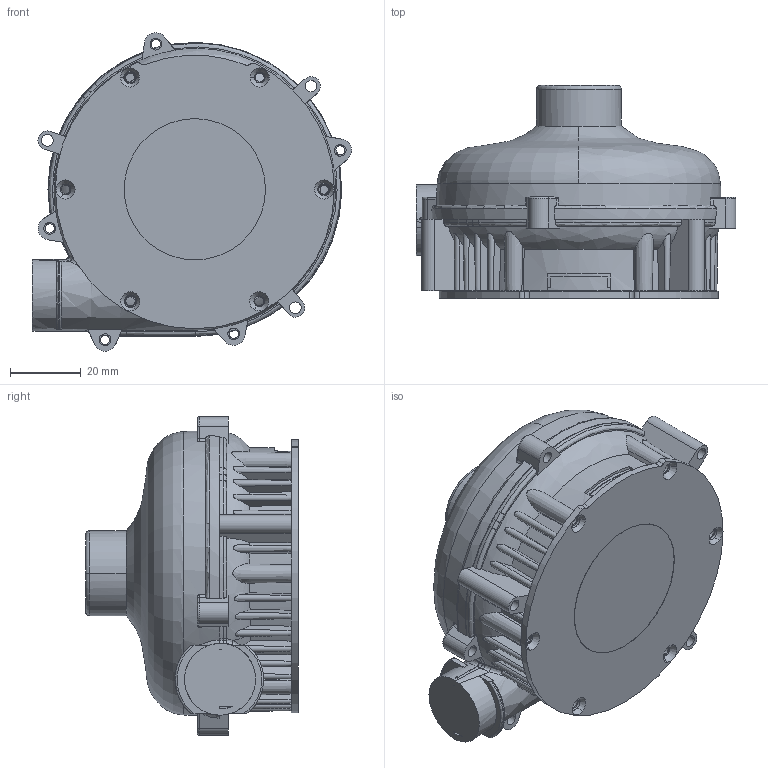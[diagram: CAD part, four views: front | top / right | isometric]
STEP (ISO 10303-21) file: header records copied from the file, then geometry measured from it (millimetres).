
FILE_DESCRIPTION((''),'2;1');
FILE_NAME('_0002_54','2026-07-15T10:23:40',('pc'),(''),'CREO PARAMETRIC BY PTC INC, 2018050','CREO PARAMETRIC BY PTC INC, 2018050','');
FILE_SCHEMA(('CONFIG_CONTROL_DESIGN','GEOMETRIC_VALIDATION_PROPERTIES_MIM'));
Length unit declared in the file: millimetre
Products named in the file (1): _0002_54
Bounding box: 90.4 x 60.28 x 90.15 mm (x, y, z)
Volume: 220555 mm3; surface area: 38114 mm2
Topology: 3 solids, 3 shells, 471 faces, 1351 edges, 901 vertices
Faces by surface type: plane 180, cylinder 148, cone 59, bspline 52, torus 21, extrusion 9, revolution 2
Entity records: 26910 total; most frequent: CARTESIAN_POINT 10749, ORIENTED_EDGE 2702, DIRECTION 2116, PRESENTATION_STYLE_ASSIGNMENT 1389, STYLED_ITEM 1354, CURVE_STYLE 1351, EDGE_CURVE 1351, VERTEX_POINT 901
